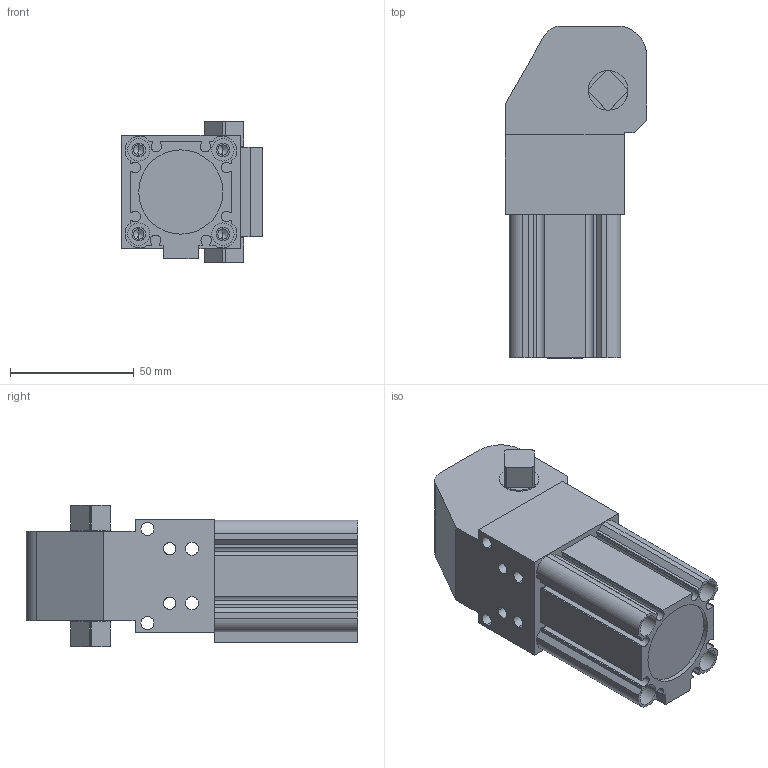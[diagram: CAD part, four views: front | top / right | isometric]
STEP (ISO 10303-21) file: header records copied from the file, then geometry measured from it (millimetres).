
FILE_DESCRIPTION (( 'STEP AP203' ), '1' );
FILE_NAME ('BC-32-S-56.STEP', '2017-02-15T11:04:33', ( '' ), ( '' ), 'SwSTEP 2.0', 'SolidWorks 2012', '' );
FILE_SCHEMA (( 'CONFIG_CONTROL_DESIGN' ));
Length unit declared in the file: millimetre
Products named in the file (4): BC-32-S-56; S-32-25; BC32S-2; BC32S-1
Assembly tree (3 placements, depth 2):
  BC-32-S-56
    BC32S-1
    BC32S-2
    S-32-25
Bounding box: 57 x 134 x 57 mm (x, y, z)
Volume: 207926.4 mm3; surface area: 56669 mm2
Topology: 3 solids, 3 shells, 203 faces, 526 edges, 340 vertices
Faces by surface type: plane 97, cylinder 94, cone 12
Entity records: 6754 total; most frequent: CARTESIAN_POINT 1203, DIRECTION 1120, ORIENTED_EDGE 1036, EDGE_CURVE 518, AXIS2_PLACEMENT_3D 401, VERTEX_POINT 340, LINE 318, VECTOR 318
